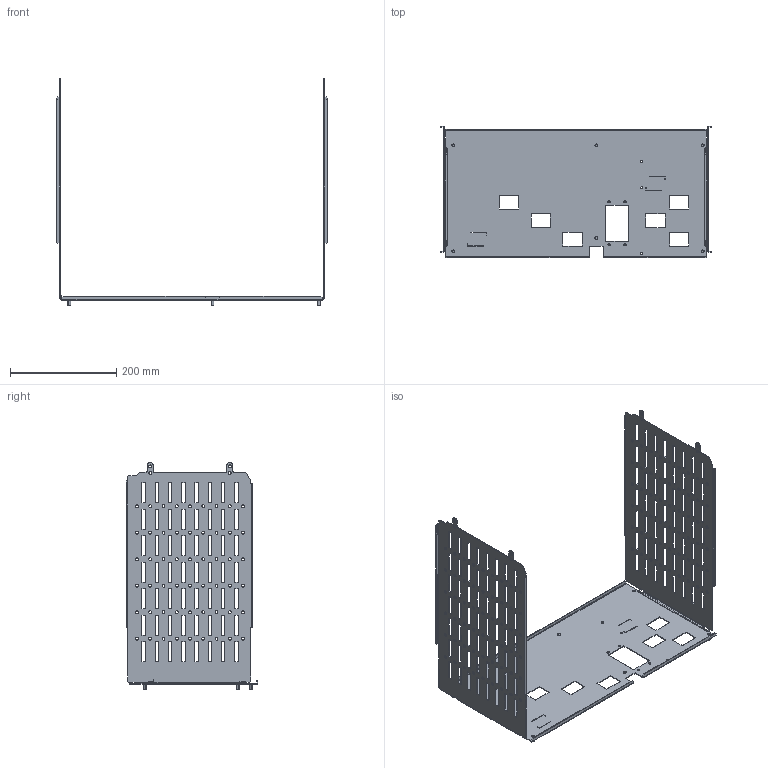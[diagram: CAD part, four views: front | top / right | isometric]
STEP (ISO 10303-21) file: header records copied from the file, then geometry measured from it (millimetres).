
FILE_DESCRIPTION(('CAx-IF Rec.Pracs.---Model Styling and Organization---1.2---2011-12-15','CAx-IF Rec.Pracs.---Geometric and Assembly Validation Properties---4.1---2014-06-16','CAx-IF Rec.Pracs.---PMI Polyline Presentation---2.0---2013-05-24'),'2;1');
FILE_NAME('R5M2W5M1A22.stp','2021-05-05T12:25:41+03:00',(''),(''),'STEP Interface 4.4 by CT CoreTechnologie','3D_Evolution4.4 by CT CoreTechnologie','');
FILE_SCHEMA(('AUTOMOTIVE_DESIGN { 1 0 10303 214 1 1 1 1 }'));
Length unit declared in the file: millimetre
Products named in the file (5): R5M2W5M1A22; M5x8-DIN7500C_stright; RB.1257.00.00.0_-05; RB.1285.00.00.0_-10; RB.1285.00.00.0_-11
Assembly tree (9 placements, depth 2):
  R5M2W5M1A22
    M5x8-DIN7500C_stright  x6
    RB.1257.00.00.0_-05
    RB.1285.00.00.0_-10
    RB.1285.00.00.0_-11
Bounding box: 510 x 247.5 x 428.6 mm (x, y, z)
Surface area: 576075.2 mm2 (no closed solid volume)
Topology: 0 solids, 10 shells, 957 faces, 2839 edges, 1894 vertices
Faces by surface type: plane 645, cylinder 312
Entity records: 32851 total; most frequent: CARTESIAN_POINT 5630, ORIENTED_EDGE 5618, DIRECTION 5309, EDGE_CURVE 2809, VECTOR 2203, LINE 2203, VERTEX_POINT 1874, AXIS2_PLACEMENT_3D 1553
